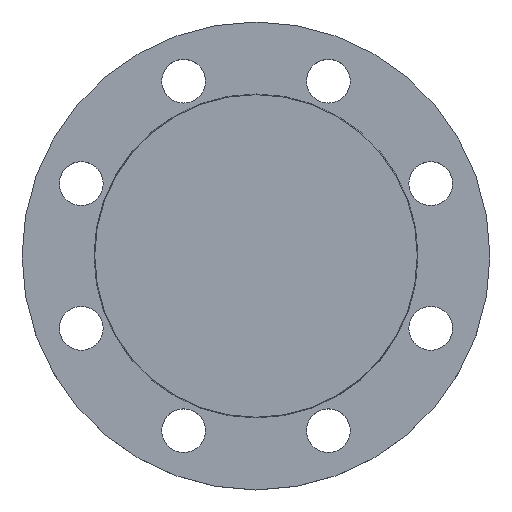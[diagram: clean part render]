
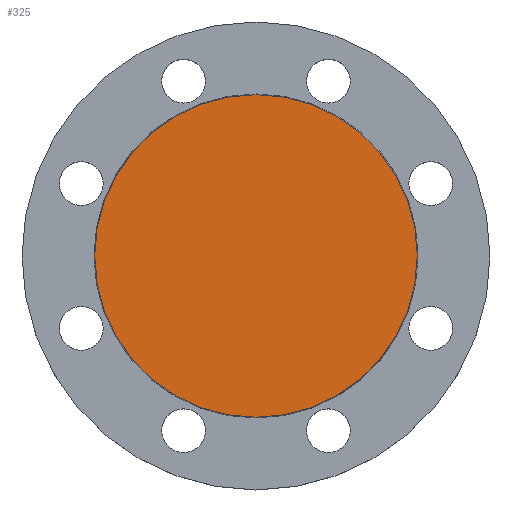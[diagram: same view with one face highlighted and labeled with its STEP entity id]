
A CAD part, top view. The second image highlights one B-rep face of the part: STEP entity #325.
In plain terms, the highlighted planar face has unit normal (0, 0, 1).
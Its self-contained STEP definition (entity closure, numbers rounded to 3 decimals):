
#95 = CARTESIAN_POINT ( 'NONE',  ( -81., 0., 0. ) ) ;
#103 = CARTESIAN_POINT ( 'NONE',  ( 81., 0., 0. ) ) ;
#197 = DIRECTION ( 'NONE',  ( 0., 0., -1. ) ) ;
#198 = CARTESIAN_POINT ( 'NONE',  ( 0., 0., 0. ) ) ;
#221 = CARTESIAN_POINT ( 'NONE',  ( 0., 0., 0. ) ) ;
#245 = DIRECTION ( 'NONE',  ( -1., 0., 0. ) ) ;
#271 = AXIS2_PLACEMENT_3D ( 'NONE', #417, #418, #420 ) ;
#301 = CIRCLE ( 'NONE', #507, 81. ) ;
#325 = ADVANCED_FACE ( 'NONE', ( #414 ), #416, .T. ) ;
#414 = FACE_OUTER_BOUND ( 'NONE', #486, .T. ) ;
#416 = PLANE ( 'NONE',  #271 ) ;
#417 = CARTESIAN_POINT ( 'NONE',  ( 0., 0., 0. ) ) ;
#418 = DIRECTION ( 'NONE',  ( 0., 0., 1. ) ) ;
#420 = DIRECTION ( 'NONE',  ( 1., 0., 0. ) ) ;
#427 = DIRECTION ( 'NONE',  ( 0., 0., -1. ) ) ;
#433 = DIRECTION ( 'NONE',  ( -1., 0., 0. ) ) ;
#436 = CIRCLE ( 'NONE', #659, 81. ) ;
#463 = EDGE_CURVE ( 'NONE', #647, #637, #436, .T. ) ;
#471 = EDGE_CURVE ( 'NONE', #637, #647, #301, .T. ) ;
#486 = EDGE_LOOP ( 'NONE', ( #598, #599 ) ) ;
#507 = AXIS2_PLACEMENT_3D ( 'NONE', #221, #427, #433 ) ;
#598 = ORIENTED_EDGE ( 'NONE', *, *, #463, .F. ) ;
#599 = ORIENTED_EDGE ( 'NONE', *, *, #471, .F. ) ;
#637 = VERTEX_POINT ( 'NONE', #103 ) ;
#647 = VERTEX_POINT ( 'NONE', #95 ) ;
#659 = AXIS2_PLACEMENT_3D ( 'NONE', #198, #197, #245 ) ;
